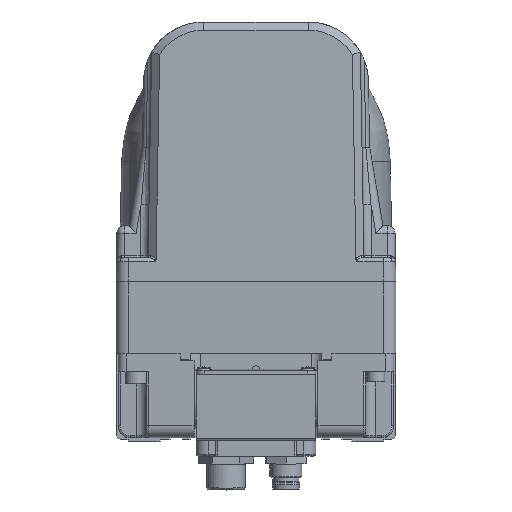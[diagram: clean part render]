
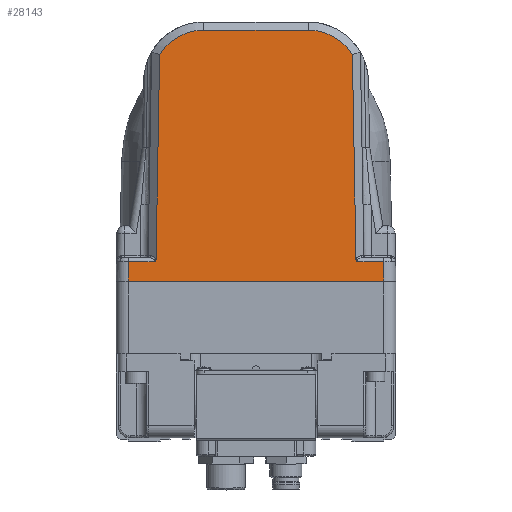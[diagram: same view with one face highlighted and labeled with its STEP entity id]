
A CAD part, front view. The second image highlights one B-rep face of the part: STEP entity #28143.
In plain terms, the highlighted planar face has unit normal (0, -1, 0.018).
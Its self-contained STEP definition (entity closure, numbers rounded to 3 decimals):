
#23 = LINE ( 'NONE', #30907, #49775 ) ;
#113 = LINE ( 'NONE', #47052, #52957 ) ;
#203 = ORIENTED_EDGE ( 'NONE', *, *, #5981, .T. ) ;
#310 = CARTESIAN_POINT ( 'NONE',  ( -31.913, -17.852, -24.983 ) ) ;
#984 = ORIENTED_EDGE ( 'NONE', *, *, #7209, .T. ) ;
#1991 = LINE ( 'NONE', #3657, #41185 ) ;
#3657 = CARTESIAN_POINT ( 'NONE',  ( -13.125, -16.841, 32.974 ) ) ;
#3806 = EDGE_LOOP ( 'NONE', ( #61098, #64389, #203, #14226, #19417, #48626, #6740, #984, #11027, #7116, #15477, #66191, #40840 ) ) ;
#4098 = CARTESIAN_POINT ( 'NONE',  ( 25.224, -17.852, -24.983 ) ) ;
#5423 = EDGE_CURVE ( 'NONE', #56011, #6467, #61054, .T. ) ;
#5677 = EDGE_CURVE ( 'NONE', #6467, #16377, #113, .T. ) ;
#5981 = EDGE_CURVE ( 'NONE', #16377, #16803, #36916, .T. ) ;
#6199 = EDGE_CURVE ( 'NONE', #16803, #16893, #18577, .T. ) ;
#6467 = VERTEX_POINT ( 'NONE', #63182 ) ;
#6612 = EDGE_CURVE ( 'NONE', #16893, #17289, #47038, .T. ) ;
#6740 = ORIENTED_EDGE ( 'NONE', *, *, #7087, .T. ) ;
#6811 = EDGE_CURVE ( 'NONE', #17289, #18114, #32531, .T. ) ;
#7087 = EDGE_CURVE ( 'NONE', #18114, #18539, #40607, .T. ) ;
#7089 = CARTESIAN_POINT ( 'NONE',  ( -32.001, -17.941, -30.052 ) ) ;
#7116 = ORIENTED_EDGE ( 'NONE', *, *, #8253, .T. ) ;
#7209 = EDGE_CURVE ( 'NONE', #18539, #18975, #1991, .T. ) ;
#7682 = EDGE_CURVE ( 'NONE', #18975, #19342, #39424, .T. ) ;
#8253 = EDGE_CURVE ( 'NONE', #19342, #14052, #37741, .T. ) ;
#8469 = EDGE_CURVE ( 'NONE', #14479, #12790, #31682, .T. ) ;
#8641 = EDGE_CURVE ( 'NONE', #12790, #56011, #23, .T. ) ;
#9707 = CARTESIAN_POINT ( 'NONE',  ( 13.125, -16.841, 32.974 ) ) ;
#9868 = CARTESIAN_POINT ( 'NONE',  ( 31.913, -17.852, -24.983 ) ) ;
#9931 = CARTESIAN_POINT ( 'NONE',  ( 14.221, -16.841, 32.974 ) ) ;
#10228 = CARTESIAN_POINT ( 'NONE',  ( 25.006, -17.841, -24.342 ) ) ;
#10317 = CARTESIAN_POINT ( 'NONE',  ( 15.311, -16.843, 32.835 ) ) ;
#10592 = CARTESIAN_POINT ( 'NONE',  ( 17.431, -16.853, 32.286 ) ) ;
#10649 = CARTESIAN_POINT ( 'NONE',  ( 18.453, -16.86, 31.877 ) ) ;
#10830 = CARTESIAN_POINT ( 'NONE',  ( 20.366, -16.878, 30.813 ) ) ;
#10843 = CARTESIAN_POINT ( 'NONE',  ( 21.253, -16.89, 30.162 ) ) ;
#11027 = ORIENTED_EDGE ( 'NONE', *, *, #7682, .T. ) ;
#11046 = CARTESIAN_POINT ( 'NONE',  ( 24.112, -16.947, 26.869 ) ) ;
#11903 = CARTESIAN_POINT ( 'NONE',  ( 23.533, -16.931, 27.799 ) ) ;
#12790 = VERTEX_POINT ( 'NONE', #16060 ) ;
#13331 = CARTESIAN_POINT ( 'NONE',  ( 0., -17.416, 0. ) ) ;
#13545 = CARTESIAN_POINT ( 'NONE',  ( 13.125, -16.841, 32.974 ) ) ;
#14052 = VERTEX_POINT ( 'NONE', #42106 ) ;
#14226 = ORIENTED_EDGE ( 'NONE', *, *, #6199, .T. ) ;
#14393 = CARTESIAN_POINT ( 'NONE',  ( 22.839, -16.916, 28.652 ) ) ;
#14479 = VERTEX_POINT ( 'NONE', #18565 ) ;
#15477 = ORIENTED_EDGE ( 'NONE', *, *, #21369, .T. ) ;
#16060 = CARTESIAN_POINT ( 'NONE',  ( -25.224, -17.852, -24.983 ) ) ;
#16377 = VERTEX_POINT ( 'NONE', #37774 ) ;
#16803 = VERTEX_POINT ( 'NONE', #9868 ) ;
#16862 = DIRECTION ( 'NONE',  ( -1., 0., 0. ) ) ;
#16893 = VERTEX_POINT ( 'NONE', #4098 ) ;
#16995 = VECTOR ( 'NONE', #16862, 1000. ) ;
#17091 = CARTESIAN_POINT ( 'NONE',  ( 0., -17.852, -24.983 ) ) ;
#17289 = VERTEX_POINT ( 'NONE', #55980 ) ;
#18114 = VERTEX_POINT ( 'NONE', #50815 ) ;
#18323 = DIRECTION ( 'NONE',  ( -0.017, 0.017, 1. ) ) ;
#18539 = VERTEX_POINT ( 'NONE', #13545 ) ;
#18565 = CARTESIAN_POINT ( 'NONE',  ( -25.211, -17.852, -24.965 ) ) ;
#18577 = LINE ( 'NONE', #17091, #16995 ) ;
#18975 = VERTEX_POINT ( 'NONE', #64307 ) ;
#19342 = VERTEX_POINT ( 'NONE', #38654 ) ;
#19417 = ORIENTED_EDGE ( 'NONE', *, *, #6612, .T. ) ;
#20710 = DIRECTION ( 'NONE',  ( 0., -1., 0.017 ) ) ;
#21369 = EDGE_CURVE ( 'NONE', #14052, #14479, #48380, .T. ) ;
#23308 = VECTOR ( 'NONE', #30130, 1000. ) ;
#28143 = ADVANCED_FACE ( 'NONE', ( #61296 ), #61189, .T. ) ;
#29499 = AXIS2_PLACEMENT_3D ( 'NONE', #13331, #20710, #55149 ) ;
#30130 = DIRECTION ( 'NONE',  ( -0.017, 0.017, 1. ) ) ;
#30271 = CARTESIAN_POINT ( 'NONE',  ( -24.112, -16.947, 26.869 ) ) ;
#30775 = CARTESIAN_POINT ( 'NONE',  ( -23.533, -16.931, 27.8 ) ) ;
#30896 = DIRECTION ( 'NONE',  ( -1., 0., 0. ) ) ;
#30907 = CARTESIAN_POINT ( 'NONE',  ( 0., -17.852, -24.983 ) ) ;
#31115 = CARTESIAN_POINT ( 'NONE',  ( -22.839, -16.916, 28.652 ) ) ;
#31330 = CARTESIAN_POINT ( 'NONE',  ( -21.253, -16.89, 30.161 ) ) ;
#31483 = CARTESIAN_POINT ( 'NONE',  ( -20.366, -16.878, 30.814 ) ) ;
#31635 = CARTESIAN_POINT ( 'NONE',  ( -18.453, -16.86, 31.877 ) ) ;
#31682 = B_SPLINE_CURVE_WITH_KNOTS ( 'NONE', 3,
 ( #46789, #37395, #40431, #39867 ),
 .UNSPECIFIED., .F., .F.,
 ( 4, 4 ),
 ( 0.001, 0.001 ),
 .UNSPECIFIED. ) ;
#31714 = CARTESIAN_POINT ( 'NONE',  ( -17.43, -16.853, 32.286 ) ) ;
#31770 = CARTESIAN_POINT ( 'NONE',  ( -14.22, -16.841, 32.974 ) ) ;
#31781 = CARTESIAN_POINT ( 'NONE',  ( 31.897, -17.836, -24.052 ) ) ;
#31843 = CARTESIAN_POINT ( 'NONE',  ( -15.312, -16.843, 32.835 ) ) ;
#32531 = LINE ( 'NONE', #36220, #59720 ) ;
#34890 = CARTESIAN_POINT ( 'NONE',  ( -13.125, -16.841, 32.974 ) ) ;
#36220 = CARTESIAN_POINT ( 'NONE',  ( 24.101, -16.936, 27.491 ) ) ;
#36916 = LINE ( 'NONE', #31781, #23308 ) ;
#37395 = CARTESIAN_POINT ( 'NONE',  ( -25.216, -17.852, -24.971 ) ) ;
#37741 = LINE ( 'NONE', #56846, #64933 ) ;
#37774 = CARTESIAN_POINT ( 'NONE',  ( 31.997, -17.937, -29.8 ) ) ;
#38406 = DIRECTION ( 'NONE',  ( -0.017, -0.017, -1. ) ) ;
#38654 = CARTESIAN_POINT ( 'NONE',  ( -24.112, -16.947, 26.869 ) ) ;
#39424 = B_SPLINE_CURVE_WITH_KNOTS ( 'NONE', 3,
 ( #34890, #31770, #31843, #31714, #31635, #31483, #31330, #31115, #30775, #30271 ),
 .UNSPECIFIED., .F., .F.,
 ( 4, 2, 2, 2, 4 ),
 ( 0., 0.25, 0.5, 0.75, 1. ),
 .UNSPECIFIED. ) ;
#39517 = CARTESIAN_POINT ( 'NONE',  ( -25.01, -17.845, -24.566 ) ) ;
#39867 = CARTESIAN_POINT ( 'NONE',  ( -25.224, -17.852, -24.983 ) ) ;
#40431 = CARTESIAN_POINT ( 'NONE',  ( -25.22, -17.852, -24.977 ) ) ;
#40607 = B_SPLINE_CURVE_WITH_KNOTS ( 'NONE', 3,
 ( #11046, #11903, #14393, #10843, #10830, #10649, #10592, #10317, #9931, #9707 ),
 .UNSPECIFIED., .F., .F.,
 ( 4, 2, 2, 2, 4 ),
 ( 0., 0.25, 0.5, 0.75, 1. ),
 .UNSPECIFIED. ) ;
#40840 = ORIENTED_EDGE ( 'NONE', *, *, #8641, .T. ) ;
#41185 = VECTOR ( 'NONE', #51153, 1000. ) ;
#42106 = CARTESIAN_POINT ( 'NONE',  ( -25.006, -17.841, -24.342 ) ) ;
#46663 = DIRECTION ( 'NONE',  ( 1., 0., 0. ) ) ;
#46789 = CARTESIAN_POINT ( 'NONE',  ( -25.211, -17.852, -24.965 ) ) ;
#47038 = B_SPLINE_CURVE_WITH_KNOTS ( 'NONE', 3,
 ( #50074, #50137, #49786, #49698, #49571, #10228 ),
 .UNSPECIFIED., .F., .F.,
 ( 4, 2, 4 ),
 ( 0., 0., 0.001 ),
 .UNSPECIFIED. ) ;
#47052 = CARTESIAN_POINT ( 'NONE',  ( 0., -17.937, -29.8 ) ) ;
#47555 = VECTOR ( 'NONE', #38406, 1000. ) ;
#48380 = B_SPLINE_CURVE_WITH_KNOTS ( 'NONE', 3,
 ( #56938, #39517, #56594, #56375 ),
 .UNSPECIFIED., .F., .F.,
 ( 4, 4 ),
 ( 0., 0.001 ),
 .UNSPECIFIED. ) ;
#48626 = ORIENTED_EDGE ( 'NONE', *, *, #6811, .T. ) ;
#49571 = CARTESIAN_POINT ( 'NONE',  ( 25.008, -17.843, -24.458 ) ) ;
#49698 = CARTESIAN_POINT ( 'NONE',  ( 25.027, -17.845, -24.57 ) ) ;
#49775 = VECTOR ( 'NONE', #30896, 1000. ) ;
#49786 = CARTESIAN_POINT ( 'NONE',  ( 25.102, -17.849, -24.788 ) ) ;
#50074 = CARTESIAN_POINT ( 'NONE',  ( 25.224, -17.852, -24.983 ) ) ;
#50137 = CARTESIAN_POINT ( 'NONE',  ( 25.157, -17.851, -24.89 ) ) ;
#50815 = CARTESIAN_POINT ( 'NONE',  ( 24.112, -16.947, 26.869 ) ) ;
#51153 = DIRECTION ( 'NONE',  ( -1., 0., 0. ) ) ;
#52957 = VECTOR ( 'NONE', #46663, 1000. ) ;
#55149 = DIRECTION ( 'NONE',  ( 0., -0.017, -1. ) ) ;
#55980 = CARTESIAN_POINT ( 'NONE',  ( 25.006, -17.841, -24.342 ) ) ;
#56011 = VERTEX_POINT ( 'NONE', #310 ) ;
#56375 = CARTESIAN_POINT ( 'NONE',  ( -25.211, -17.852, -24.965 ) ) ;
#56594 = CARTESIAN_POINT ( 'NONE',  ( -25.082, -17.849, -24.783 ) ) ;
#56766 = DIRECTION ( 'NONE',  ( -0.017, -0.017, -1. ) ) ;
#56846 = CARTESIAN_POINT ( 'NONE',  ( -25., -17.836, -24.035 ) ) ;
#56938 = CARTESIAN_POINT ( 'NONE',  ( -25.006, -17.841, -24.342 ) ) ;
#59720 = VECTOR ( 'NONE', #18323, 1000. ) ;
#61054 = LINE ( 'NONE', #7089, #47555 ) ;
#61098 = ORIENTED_EDGE ( 'NONE', *, *, #5423, .T. ) ;
#61189 = PLANE ( 'NONE',  #29499 ) ;
#61296 = FACE_OUTER_BOUND ( 'NONE', #3806, .T. ) ;
#63182 = CARTESIAN_POINT ( 'NONE',  ( -31.997, -17.937, -29.8 ) ) ;
#64307 = CARTESIAN_POINT ( 'NONE',  ( -13.125, -16.841, 32.974 ) ) ;
#64389 = ORIENTED_EDGE ( 'NONE', *, *, #5677, .T. ) ;
#64933 = VECTOR ( 'NONE', #56766, 1000. ) ;
#66191 = ORIENTED_EDGE ( 'NONE', *, *, #8469, .T. ) ;
